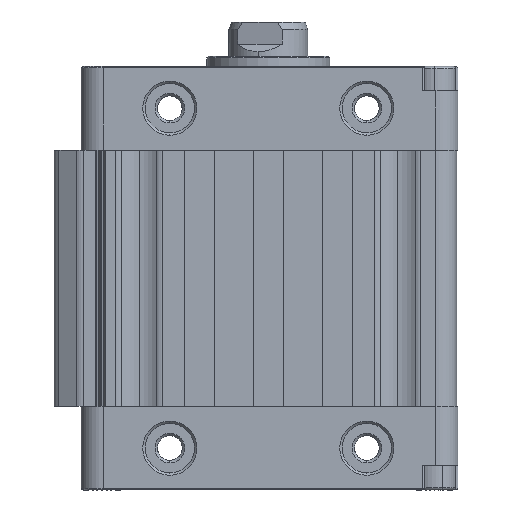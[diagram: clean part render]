
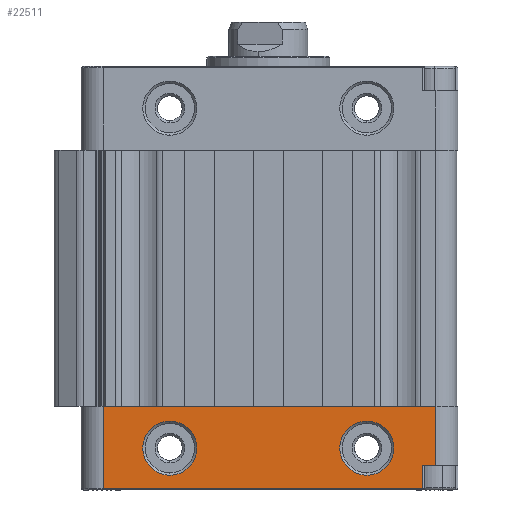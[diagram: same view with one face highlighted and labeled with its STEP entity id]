
A CAD part, left-side view. The second image highlights one B-rep face of the part: STEP entity #22511.
In plain terms, the highlighted planar face has unit normal (-1, 0, 0).
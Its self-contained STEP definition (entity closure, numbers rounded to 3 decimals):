
#60 = VECTOR ( 'NONE', #10098, 1000. ) ;
#62 = CARTESIAN_POINT ( 'NONE',  ( -15., -20., -77.5 ) ) ;
#288 = EDGE_CURVE ( 'NONE', #19130, #22376, #13569, .T. ) ;
#338 = ORIENTED_EDGE ( 'NONE', *, *, #11510, .T. ) ;
#669 = LINE ( 'NONE', #7094, #13704 ) ;
#814 = CARTESIAN_POINT ( 'NONE',  ( -15., -34., -69. ) ) ;
#1022 = EDGE_CURVE ( 'NONE', #3096, #22984, #4011, .T. ) ;
#1193 = DIRECTION ( 'NONE',  ( 0., 1., 0. ) ) ;
#1336 = VECTOR ( 'NONE', #7632, 1000. ) ;
#2250 = EDGE_CURVE ( 'NONE', #4447, #2254, #4259, .T. ) ;
#2254 = VERTEX_POINT ( 'NONE', #22084 ) ;
#2673 = ORIENTED_EDGE ( 'NONE', *, *, #20710, .T. ) ;
#2848 = CIRCLE ( 'NONE', #21046, 5.5 ) ;
#3096 = VERTEX_POINT ( 'NONE', #17951 ) ;
#3421 = EDGE_CURVE ( 'NONE', #22376, #12077, #669, .T. ) ;
#3462 = FACE_BOUND ( 'NONE', #8817, .T. ) ;
#4011 = CIRCLE ( 'NONE', #23102, 5.5 ) ;
#4259 = CIRCLE ( 'NONE', #21242, 5.5 ) ;
#4447 = VERTEX_POINT ( 'NONE', #14078 ) ;
#4554 = LINE ( 'NONE', #5751, #1336 ) ;
#4686 = AXIS2_PLACEMENT_3D ( 'NONE', #25163, #17154, #15306 ) ;
#5039 = FACE_OUTER_BOUND ( 'NONE', #7972, .T. ) ;
#5463 = DIRECTION ( 'NONE',  ( 1., 0., 0. ) ) ;
#5751 = CARTESIAN_POINT ( 'NONE',  ( -15., 33.5, -69. ) ) ;
#6231 = LINE ( 'NONE', #17067, #18921 ) ;
#6789 = CARTESIAN_POINT ( 'NONE',  ( -15., -34., -81. ) ) ;
#6835 = CARTESIAN_POINT ( 'NONE',  ( -15., 33.5, -69. ) ) ;
#6852 = ORIENTED_EDGE ( 'NONE', *, *, #20855, .T. ) ;
#7064 = CIRCLE ( 'NONE', #25075, 5.5 ) ;
#7094 = CARTESIAN_POINT ( 'NONE',  ( -15., -34., -69. ) ) ;
#7632 = DIRECTION ( 'NONE',  ( 0., 0., 1. ) ) ;
#7972 = EDGE_LOOP ( 'NONE', ( #2673, #13367, #6852, #23456, #24172, #19231 ) ) ;
#7992 = CARTESIAN_POINT ( 'NONE',  ( -15., 33.5, -85.7 ) ) ;
#8570 = VERTEX_POINT ( 'NONE', #10209 ) ;
#8817 = EDGE_LOOP ( 'NONE', ( #16624, #10254 ) ) ;
#10098 = DIRECTION ( 'NONE',  ( 0., -1., 0. ) ) ;
#10209 = CARTESIAN_POINT ( 'NONE',  ( -15., -31.363, -85.7 ) ) ;
#10254 = ORIENTED_EDGE ( 'NONE', *, *, #2250, .T. ) ;
#10266 = VECTOR ( 'NONE', #1193, 1000. ) ;
#10562 = LINE ( 'NONE', #21895, #60 ) ;
#11426 = CARTESIAN_POINT ( 'NONE',  ( -15., 20., -77.5 ) ) ;
#11510 = EDGE_CURVE ( 'NONE', #22984, #3096, #2848, .T. ) ;
#12077 = VERTEX_POINT ( 'NONE', #814 ) ;
#12639 = DIRECTION ( 'NONE',  ( 0., 0., -1. ) ) ;
#12859 = ORIENTED_EDGE ( 'NONE', *, *, #1022, .T. ) ;
#13007 = VERTEX_POINT ( 'NONE', #7992 ) ;
#13046 = DIRECTION ( 'NONE',  ( 0., 0., 1. ) ) ;
#13182 = EDGE_CURVE ( 'NONE', #8570, #19130, #6231, .T. ) ;
#13367 = ORIENTED_EDGE ( 'NONE', *, *, #14657, .F. ) ;
#13569 = LINE ( 'NONE', #22490, #15506 ) ;
#13704 = VECTOR ( 'NONE', #19074, 1000. ) ;
#14078 = CARTESIAN_POINT ( 'NONE',  ( -15., -20., -72. ) ) ;
#14278 = DIRECTION ( 'NONE',  ( 1., 0., 0. ) ) ;
#14456 = CARTESIAN_POINT ( 'NONE',  ( -15., 20., -77.5 ) ) ;
#14657 = EDGE_CURVE ( 'NONE', #13007, #19493, #4554, .T. ) ;
#15201 = CARTESIAN_POINT ( 'NONE',  ( -15., -31.363, -81. ) ) ;
#15306 = DIRECTION ( 'NONE',  ( 0., 0., -1. ) ) ;
#15506 = VECTOR ( 'NONE', #24532, 1000. ) ;
#15521 = DIRECTION ( 'NONE',  ( 0., 0., -1. ) ) ;
#16624 = ORIENTED_EDGE ( 'NONE', *, *, #23421, .T. ) ;
#17067 = CARTESIAN_POINT ( 'NONE',  ( -15., -31.363, -69. ) ) ;
#17154 = DIRECTION ( 'NONE',  ( -1., 0., 0. ) ) ;
#17951 = CARTESIAN_POINT ( 'NONE',  ( -15., 20., -83. ) ) ;
#18016 = CARTESIAN_POINT ( 'NONE',  ( -15., 20., -72. ) ) ;
#18091 = DIRECTION ( 'NONE',  ( 1., 0., 0. ) ) ;
#18722 = EDGE_LOOP ( 'NONE', ( #12859, #338 ) ) ;
#18921 = VECTOR ( 'NONE', #13046, 1000. ) ;
#19074 = DIRECTION ( 'NONE',  ( 0., 0., 1. ) ) ;
#19130 = VERTEX_POINT ( 'NONE', #15201 ) ;
#19231 = ORIENTED_EDGE ( 'NONE', *, *, #3421, .T. ) ;
#19493 = VERTEX_POINT ( 'NONE', #6835 ) ;
#19588 = CARTESIAN_POINT ( 'NONE',  ( -15., -20., -77.5 ) ) ;
#20710 = EDGE_CURVE ( 'NONE', #12077, #19493, #22940, .T. ) ;
#20855 = EDGE_CURVE ( 'NONE', #13007, #8570, #10562, .T. ) ;
#21046 = AXIS2_PLACEMENT_3D ( 'NONE', #14456, #14278, #12639 ) ;
#21242 = AXIS2_PLACEMENT_3D ( 'NONE', #62, #18091, #26259 ) ;
#21604 = DIRECTION ( 'NONE',  ( 0., 0., -1. ) ) ;
#21895 = CARTESIAN_POINT ( 'NONE',  ( -15., 0., -85.7 ) ) ;
#22084 = CARTESIAN_POINT ( 'NONE',  ( -15., -20., -83. ) ) ;
#22376 = VERTEX_POINT ( 'NONE', #6789 ) ;
#22490 = CARTESIAN_POINT ( 'NONE',  ( -15., 38., -81. ) ) ;
#22511 = ADVANCED_FACE ( 'NONE', ( #23426, #3462, #5039 ), #25422, .T. ) ;
#22940 = LINE ( 'NONE', #25548, #10266 ) ;
#22984 = VERTEX_POINT ( 'NONE', #18016 ) ;
#23102 = AXIS2_PLACEMENT_3D ( 'NONE', #11426, #23674, #15521 ) ;
#23421 = EDGE_CURVE ( 'NONE', #2254, #4447, #7064, .T. ) ;
#23426 = FACE_BOUND ( 'NONE', #18722, .T. ) ;
#23456 = ORIENTED_EDGE ( 'NONE', *, *, #13182, .T. ) ;
#23674 = DIRECTION ( 'NONE',  ( 1., 0., 0. ) ) ;
#24172 = ORIENTED_EDGE ( 'NONE', *, *, #288, .T. ) ;
#24532 = DIRECTION ( 'NONE',  ( 0., -1., 0. ) ) ;
#25075 = AXIS2_PLACEMENT_3D ( 'NONE', #19588, #5463, #21604 ) ;
#25163 = CARTESIAN_POINT ( 'NONE',  ( -15., 38., -69. ) ) ;
#25422 = PLANE ( 'NONE',  #4686 ) ;
#25548 = CARTESIAN_POINT ( 'NONE',  ( -15., 38., -69. ) ) ;
#26259 = DIRECTION ( 'NONE',  ( 0., 0., -1. ) ) ;
